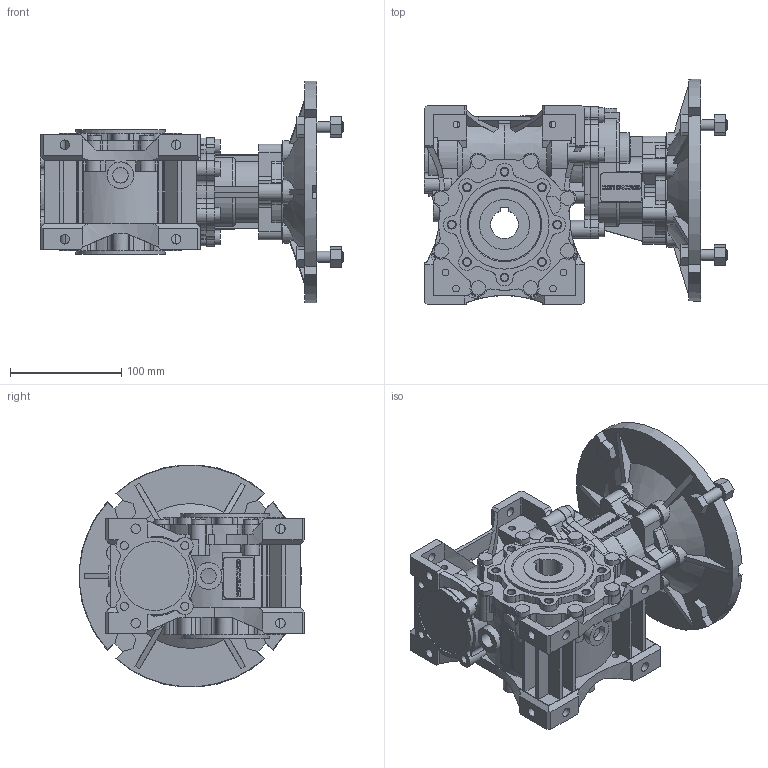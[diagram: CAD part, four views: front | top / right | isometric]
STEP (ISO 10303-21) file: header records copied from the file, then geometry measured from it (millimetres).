
FILE_DESCRIPTION(/* description */ ('STEP AP214'),/* implementation_level */ '2;1');
FILE_NAME(/* name */ 'NMRVP_HW 030-063 71.25 (4.75x15) 200x19 25 NO NO - - NO - - - NO NO - --(--------)',/* time_stamp */ '2024-10-08T09:22:24+02:00',/* author */ ('License CC BY-ND 4.0'),/* organization */ ('CADENAS'),/* preprocessor_version */ 'ST-DEVELOPER v19.3',/* originating_system */ 'PARTsolutions',/* authorisation */ ' ');
FILE_SCHEMA (('AUTOMOTIVE_DESIGN {1 0 10303 214 3 1 1}'));
Products named in the file (8): NMRVP/HW 030-063 71.25 (4.75x15) 200x19 25 NO NO - - NO - - - NO NO -
 --(--------); W.063.01.M; 063-25 (112); W.063.14.14.M-phw; 63-45; HW30; 6380 B5; PC.030.27.19.M
Assembly tree (7 placements, depth 2):
  NMRVP/HW 030-063 71.25 (4.75x15) 200x19 25 NO NO - - NO - - - NO NO -
 --(--------)
    W.063.01.M
    063-25 (112)
    W.063.14.14.M-phw
    63-45
    HW30
    6380 B5
    PC.030.27.19.M
Bounding box: 272.5 x 202.84 x 199.34 mm (x, y, z)
Volume: 2348276.4 mm3; surface area: 422717.1 mm2
Topology: 7 solids, 11 shells, 2001 faces, 5434 edges, 3596 vertices
Faces by surface type: plane 1183, cylinder 724, cone 88, torus 6
Full cylindrical faces by diameter (mm): 6 x12, 6.647 x16, 7.26 x12, 7.8 x1, 8.5 x14, 10 x8, 13 x14, 14 x3, 18 x1, 24 x1, 26 x1, 27 x1, 34 x1, 35 x2, 37 x1, 44 x1, 45 x3, 62 x3, 68 x4, 80 x2, 130 x1
Entity records: 77068 total; most frequent: CARTESIAN_POINT 12042, DIRECTION 10729, ORIENTED_EDGE 10556, EDGE_CURVE 5278, AXIS2_PLACEMENT_3D 3761, VERTEX_POINT 3570, LINE 3207, VECTOR 3207
